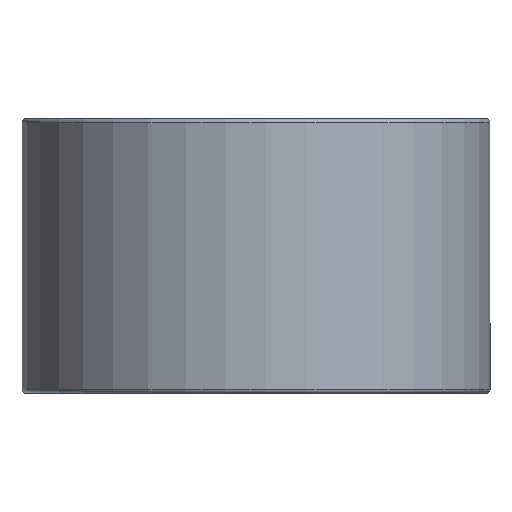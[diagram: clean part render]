
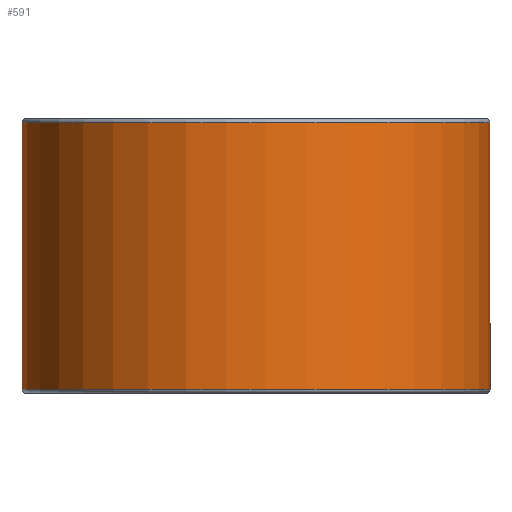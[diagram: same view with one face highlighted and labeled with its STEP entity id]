
A CAD part, front view. The second image highlights one B-rep face of the part: STEP entity #591.
In plain terms, the highlighted cylindrical face has radius 29 mm (diameter 58 mm), a full revolution.
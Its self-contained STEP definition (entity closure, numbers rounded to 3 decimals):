
#591=ADVANCED_FACE('',(#707,#708),#660,.T.);
#660=CYLINDRICAL_SURFACE('',#1525,29.);
#707=FACE_BOUND('',#784,.T.);
#708=FACE_BOUND('',#785,.T.);
#784=EDGE_LOOP('',(#919));
#785=EDGE_LOOP('',(#920));
#919=ORIENTED_EDGE('',*,*,#1301,.T.);
#920=ORIENTED_EDGE('',*,*,#1302,.T.);
#1189=VERTEX_POINT('',#2160);
#1190=VERTEX_POINT('',#2162);
#1301=EDGE_CURVE('',#1189,#1189,#1435,.T.);
#1302=EDGE_CURVE('',#1190,#1190,#1436,.T.);
#1435=CIRCLE('',#1523,29.);
#1436=CIRCLE('',#1524,29.);
#1523=AXIS2_PLACEMENT_3D('',#2159,#1721,#1722);
#1524=AXIS2_PLACEMENT_3D('',#2161,#1723,#1724);
#1525=AXIS2_PLACEMENT_3D('',#2163,#1725,#1726);
#1721=DIRECTION('',(0.,0.,-1.));
#1722=DIRECTION('',(1.,0.,0.));
#1723=DIRECTION('',(0.,0.,1.));
#1724=DIRECTION('',(1.,0.,0.));
#1725=DIRECTION('',(0.,0.,-1.));
#1726=DIRECTION('',(-1.,0.,0.));
#2159=CARTESIAN_POINT('',(0.,0.,33.5));
#2160=CARTESIAN_POINT('',(29.,0.,33.5));
#2161=CARTESIAN_POINT('',(0.,0.,0.5));
#2162=CARTESIAN_POINT('',(29.,0.,0.5));
#2163=CARTESIAN_POINT('',(0.,0.,34.));
